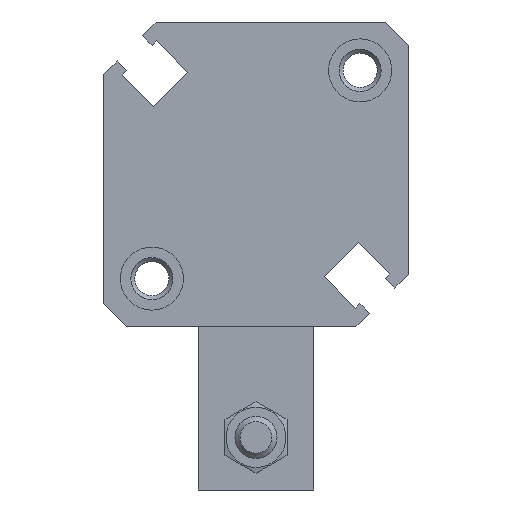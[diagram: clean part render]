
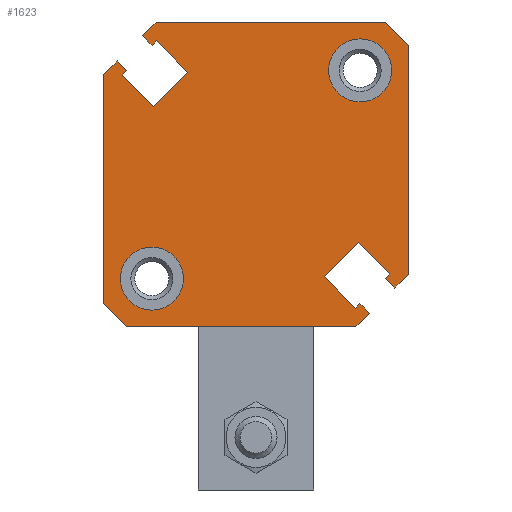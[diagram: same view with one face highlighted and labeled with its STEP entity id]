
A CAD part, front view. The second image highlights one B-rep face of the part: STEP entity #1623.
In plain terms, the highlighted planar face has unit normal (0, -1, 0).
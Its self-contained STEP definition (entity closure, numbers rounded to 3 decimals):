
#42=LINE('',#2482,#144);
#46=LINE('',#2491,#148);
#49=LINE('',#2497,#151);
#52=LINE('',#2503,#154);
#55=LINE('',#2509,#157);
#58=LINE('',#2515,#160);
#61=LINE('',#2521,#163);
#64=LINE('',#2527,#166);
#67=LINE('',#2533,#169);
#70=LINE('',#2539,#172);
#73=LINE('',#2545,#175);
#76=LINE('',#2557,#178);
#79=LINE('',#2563,#181);
#82=LINE('',#2569,#184);
#85=LINE('',#2575,#187);
#88=LINE('',#2581,#190);
#91=LINE('',#2587,#193);
#94=LINE('',#2593,#196);
#97=LINE('',#2599,#199);
#100=LINE('',#2605,#202);
#103=LINE('',#2611,#205);
#106=LINE('',#2617,#208);
#109=LINE('',#2623,#211);
#112=LINE('',#2629,#214);
#144=VECTOR('',#1972,1000.);
#148=VECTOR('',#1978,1000.);
#151=VECTOR('',#1983,1000.);
#154=VECTOR('',#1988,1000.);
#157=VECTOR('',#1993,1000.);
#160=VECTOR('',#1998,1000.);
#163=VECTOR('',#2003,1000.);
#166=VECTOR('',#2008,1000.);
#169=VECTOR('',#2013,1000.);
#172=VECTOR('',#2018,1000.);
#175=VECTOR('',#2023,1000.);
#178=VECTOR('',#2034,1000.);
#181=VECTOR('',#2039,1000.);
#184=VECTOR('',#2044,1000.);
#187=VECTOR('',#2049,1000.);
#190=VECTOR('',#2054,1000.);
#193=VECTOR('',#2059,1000.);
#196=VECTOR('',#2064,1000.);
#199=VECTOR('',#2069,1000.);
#202=VECTOR('',#2074,1000.);
#205=VECTOR('',#2079,1000.);
#208=VECTOR('',#2084,1000.);
#211=VECTOR('',#2089,1000.);
#214=VECTOR('',#2094,1000.);
#269=PLANE('',#1796);
#476=ORIENTED_EDGE('',*,*,#829,.F.);
#477=ORIENTED_EDGE('',*,*,#830,.F.);
#478=ORIENTED_EDGE('',*,*,#751,.F.);
#479=ORIENTED_EDGE('',*,*,#824,.F.);
#480=ORIENTED_EDGE('',*,*,#821,.F.);
#481=ORIENTED_EDGE('',*,*,#818,.F.);
#482=ORIENTED_EDGE('',*,*,#815,.F.);
#483=ORIENTED_EDGE('',*,*,#812,.F.);
#484=ORIENTED_EDGE('',*,*,#809,.F.);
#485=ORIENTED_EDGE('',*,*,#806,.F.);
#486=ORIENTED_EDGE('',*,*,#803,.F.);
#487=ORIENTED_EDGE('',*,*,#800,.F.);
#488=ORIENTED_EDGE('',*,*,#797,.F.);
#489=ORIENTED_EDGE('',*,*,#794,.F.);
#490=ORIENTED_EDGE('',*,*,#791,.F.);
#491=ORIENTED_EDGE('',*,*,#788,.F.);
#492=ORIENTED_EDGE('',*,*,#782,.F.);
#493=ORIENTED_EDGE('',*,*,#779,.F.);
#494=ORIENTED_EDGE('',*,*,#776,.F.);
#495=ORIENTED_EDGE('',*,*,#773,.F.);
#496=ORIENTED_EDGE('',*,*,#770,.F.);
#497=ORIENTED_EDGE('',*,*,#767,.F.);
#498=ORIENTED_EDGE('',*,*,#764,.F.);
#499=ORIENTED_EDGE('',*,*,#761,.F.);
#500=ORIENTED_EDGE('',*,*,#758,.F.);
#501=ORIENTED_EDGE('',*,*,#755,.F.);
#751=EDGE_CURVE('',#951,#952,#42,.T.);
#755=EDGE_CURVE('',#952,#955,#46,.T.);
#758=EDGE_CURVE('',#955,#957,#49,.T.);
#761=EDGE_CURVE('',#957,#959,#52,.T.);
#764=EDGE_CURVE('',#959,#961,#55,.T.);
#767=EDGE_CURVE('',#961,#963,#58,.T.);
#770=EDGE_CURVE('',#963,#965,#61,.T.);
#773=EDGE_CURVE('',#965,#967,#64,.T.);
#776=EDGE_CURVE('',#967,#969,#67,.T.);
#779=EDGE_CURVE('',#969,#971,#70,.T.);
#782=EDGE_CURVE('',#971,#973,#73,.T.);
#788=EDGE_CURVE('',#973,#978,#76,.T.);
#791=EDGE_CURVE('',#978,#980,#79,.T.);
#794=EDGE_CURVE('',#980,#982,#82,.T.);
#797=EDGE_CURVE('',#982,#984,#85,.T.);
#800=EDGE_CURVE('',#984,#986,#88,.T.);
#803=EDGE_CURVE('',#986,#988,#91,.T.);
#806=EDGE_CURVE('',#988,#990,#94,.T.);
#809=EDGE_CURVE('',#990,#992,#97,.T.);
#812=EDGE_CURVE('',#992,#994,#100,.T.);
#815=EDGE_CURVE('',#994,#996,#103,.T.);
#818=EDGE_CURVE('',#996,#998,#106,.T.);
#821=EDGE_CURVE('',#998,#1000,#109,.T.);
#824=EDGE_CURVE('',#1000,#951,#112,.T.);
#829=EDGE_CURVE('',#1005,#1005,#1111,.T.);
#830=EDGE_CURVE('',#1006,#1006,#1112,.T.);
#951=VERTEX_POINT('',#2483);
#952=VERTEX_POINT('',#2484);
#955=VERTEX_POINT('',#2492);
#957=VERTEX_POINT('',#2498);
#959=VERTEX_POINT('',#2504);
#961=VERTEX_POINT('',#2510);
#963=VERTEX_POINT('',#2516);
#965=VERTEX_POINT('',#2522);
#967=VERTEX_POINT('',#2528);
#969=VERTEX_POINT('',#2534);
#971=VERTEX_POINT('',#2540);
#973=VERTEX_POINT('',#2546);
#978=VERTEX_POINT('',#2558);
#980=VERTEX_POINT('',#2564);
#982=VERTEX_POINT('',#2570);
#984=VERTEX_POINT('',#2576);
#986=VERTEX_POINT('',#2582);
#988=VERTEX_POINT('',#2588);
#990=VERTEX_POINT('',#2594);
#992=VERTEX_POINT('',#2600);
#994=VERTEX_POINT('',#2606);
#996=VERTEX_POINT('',#2612);
#998=VERTEX_POINT('',#2618);
#1000=VERTEX_POINT('',#2624);
#1005=VERTEX_POINT('',#2640);
#1006=VERTEX_POINT('',#2642);
#1111=CIRCLE('',#1797,3.);
#1112=CIRCLE('',#1798,3.);
#1210=EDGE_LOOP('',(#476));
#1211=EDGE_LOOP('',(#477));
#1212=EDGE_LOOP('',(#478,#479,#480,#481,#482,#483,#484,#485,#486,#487,#488,
#489,#490,#491,#492,#493,#494,#495,#496,#497,#498,#499,#500,#501));
#1407=FACE_BOUND('',#1210,.T.);
#1408=FACE_BOUND('',#1211,.T.);
#1409=FACE_BOUND('',#1212,.T.);
#1623=ADVANCED_FACE('',(#1407,#1408,#1409),#269,.F.);
#1796=AXIS2_PLACEMENT_3D('',#2638,#2104,#2105);
#1797=AXIS2_PLACEMENT_3D('',#2639,#2106,#2107);
#1798=AXIS2_PLACEMENT_3D('',#2641,#2108,#2109);
#1972=DIRECTION('',(-0.707,0.,0.707));
#1978=DIRECTION('',(0.,0.,1.));
#1983=DIRECTION('',(0.707,0.,0.707));
#1988=DIRECTION('',(0.707,0.,-0.707));
#1993=DIRECTION('',(-0.707,0.,-0.707));
#1998=DIRECTION('',(0.707,0.,-0.707));
#2003=DIRECTION('',(0.707,0.,0.707));
#2008=DIRECTION('',(-0.707,0.,0.707));
#2013=DIRECTION('',(-0.707,0.,-0.707));
#2018=DIRECTION('',(-0.707,0.,0.707));
#2023=DIRECTION('',(0.707,0.,0.707));
#2034=DIRECTION('',(1.,0.,0.));
#2039=DIRECTION('',(0.707,0.,-0.707));
#2044=DIRECTION('',(0.,0.,-1.));
#2049=DIRECTION('',(-0.707,0.,-0.707));
#2054=DIRECTION('',(-0.707,0.,0.707));
#2059=DIRECTION('',(0.707,0.,0.707));
#2064=DIRECTION('',(-0.707,0.,0.707));
#2069=DIRECTION('',(-0.707,0.,-0.707));
#2074=DIRECTION('',(0.707,0.,-0.707));
#2079=DIRECTION('',(0.707,0.,0.707));
#2084=DIRECTION('',(0.707,0.,-0.707));
#2089=DIRECTION('',(-0.707,0.,-0.707));
#2094=DIRECTION('',(-1.,0.,0.));
#2104=DIRECTION('',(0.,1.,0.));
#2105=DIRECTION('',(0.,0.,1.));
#2106=DIRECTION('',(0.,-1.,0.));
#2107=DIRECTION('',(0.,0.,-1.));
#2108=DIRECTION('',(0.,-1.,0.));
#2109=DIRECTION('',(0.,0.,-1.));
#2482=CARTESIAN_POINT('',(-12.3,0.,-14.5));
#2483=CARTESIAN_POINT('',(-12.3,0.,-14.5));
#2484=CARTESIAN_POINT('',(-14.5,0.,-12.3));
#2491=CARTESIAN_POINT('',(-14.5,0.,-12.3));
#2492=CARTESIAN_POINT('',(-14.5,0.,9.5));
#2497=CARTESIAN_POINT('',(-14.5,0.,9.5));
#2498=CARTESIAN_POINT('',(-13.202,0.,10.798));
#2503=CARTESIAN_POINT('',(-13.202,0.,10.798));
#2504=CARTESIAN_POINT('',(-12.283,0.,9.879));
#2509=CARTESIAN_POINT('',(-12.283,0.,9.879));
#2510=CARTESIAN_POINT('',(-12.707,0.,9.454));
#2515=CARTESIAN_POINT('',(-12.707,0.,9.454));
#2516=CARTESIAN_POINT('',(-9.737,0.,6.485));
#2521=CARTESIAN_POINT('',(-9.737,0.,6.485));
#2522=CARTESIAN_POINT('',(-6.485,0.,9.737));
#2527=CARTESIAN_POINT('',(-6.485,0.,9.737));
#2528=CARTESIAN_POINT('',(-9.454,0.,12.707));
#2533=CARTESIAN_POINT('',(-9.454,0.,12.707));
#2534=CARTESIAN_POINT('',(-9.879,0.,12.283));
#2539=CARTESIAN_POINT('',(-9.879,0.,12.283));
#2540=CARTESIAN_POINT('',(-10.798,0.,13.202));
#2545=CARTESIAN_POINT('',(-10.798,0.,13.202));
#2546=CARTESIAN_POINT('',(-9.5,0.,14.5));
#2557=CARTESIAN_POINT('',(-9.5,0.,14.5));
#2558=CARTESIAN_POINT('',(12.3,0.,14.5));
#2563=CARTESIAN_POINT('',(12.3,0.,14.5));
#2564=CARTESIAN_POINT('',(14.5,0.,12.3));
#2569=CARTESIAN_POINT('',(14.5,0.,12.3));
#2570=CARTESIAN_POINT('',(14.5,0.,-9.5));
#2575=CARTESIAN_POINT('',(14.5,0.,-9.5));
#2576=CARTESIAN_POINT('',(13.202,0.,-10.798));
#2581=CARTESIAN_POINT('',(13.202,0.,-10.798));
#2582=CARTESIAN_POINT('',(12.283,0.,-9.879));
#2587=CARTESIAN_POINT('',(12.283,0.,-9.879));
#2588=CARTESIAN_POINT('',(12.707,0.,-9.454));
#2593=CARTESIAN_POINT('',(12.707,0.,-9.454));
#2594=CARTESIAN_POINT('',(9.737,0.,-6.485));
#2599=CARTESIAN_POINT('',(9.737,0.,-6.485));
#2600=CARTESIAN_POINT('',(6.485,0.,-9.737));
#2605=CARTESIAN_POINT('',(6.485,0.,-9.737));
#2606=CARTESIAN_POINT('',(9.454,0.,-12.707));
#2611=CARTESIAN_POINT('',(9.454,0.,-12.707));
#2612=CARTESIAN_POINT('',(9.879,0.,-12.283));
#2617=CARTESIAN_POINT('',(9.879,0.,-12.283));
#2618=CARTESIAN_POINT('',(10.798,0.,-13.202));
#2623=CARTESIAN_POINT('',(10.798,0.,-13.202));
#2624=CARTESIAN_POINT('',(9.5,0.,-14.5));
#2629=CARTESIAN_POINT('',(9.5,0.,-14.5));
#2638=CARTESIAN_POINT('',(0.,0.,0.));
#2639=CARTESIAN_POINT('',(-9.899,0.,-9.899));
#2640=CARTESIAN_POINT('',(-9.899,0.,-12.899));
#2641=CARTESIAN_POINT('',(9.899,0.,9.899));
#2642=CARTESIAN_POINT('',(9.899,0.,6.899));
